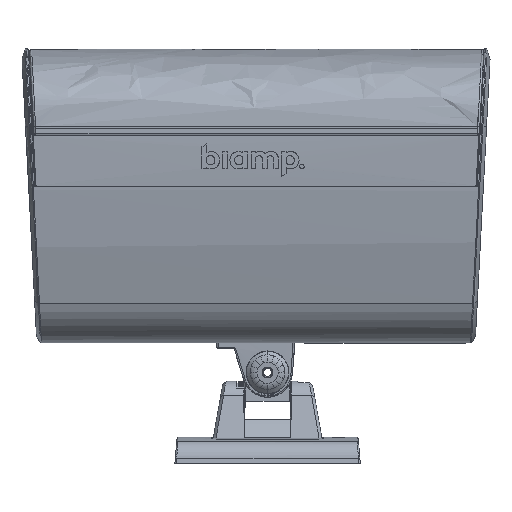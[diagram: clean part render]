
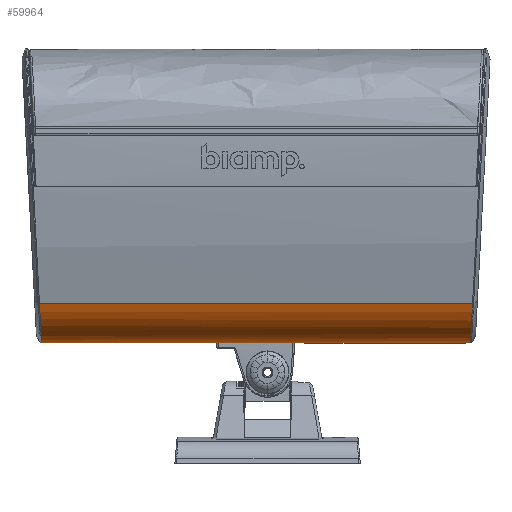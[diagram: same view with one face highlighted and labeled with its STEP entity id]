
A CAD part, left-side view. The second image highlights one B-rep face of the part: STEP entity #59964.
In plain terms, the highlighted cylindrical face has radius 42.87 mm (diameter 85.74 mm), a partial arc.
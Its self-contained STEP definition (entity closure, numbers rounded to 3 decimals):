
#1799 = CARTESIAN_POINT ( 'NONE',  ( -80.8, 161.025, -200.232 ) ) ;
#2420 = CARTESIAN_POINT ( 'NONE',  ( -79.644, 160.939, -201.892 ) ) ;
#3058 = CARTESIAN_POINT ( 'NONE',  ( -84.029, 161.322, -194.53 ) ) ;
#3700 = CARTESIAN_POINT ( 'NONE',  ( -81.928, 161.118, -198.447 ) ) ;
#4325 = CARTESIAN_POINT ( 'NONE',  ( -81.085, 161.048, -199.795 ) ) ;
#4511 = CYLINDRICAL_SURFACE ( 'NONE', #55769, 42.87 ) ;
#11992 = CARTESIAN_POINT ( 'NONE',  ( -70.273, 160.453, -211.259 ) ) ;
#12615 = CARTESIAN_POINT ( 'NONE',  ( -79.667, 160.941, -201.86 ) ) ;
#12633 = ORIENTED_EDGE ( 'NONE', *, *, #86346, .F. ) ;
#13247 = CARTESIAN_POINT ( 'NONE',  ( -58.419, 160.139, -217.341 ) ) ;
#13877 = CARTESIAN_POINT ( 'NONE',  ( -72.299, 160.534, -209.691 ) ) ;
#14489 = CARTESIAN_POINT ( 'NONE',  ( -70.367, 160.456, -211.191 ) ) ;
#14753 = CARTESIAN_POINT ( 'NONE',  ( -47.254, -160.03, -219.49 ) ) ;
#15367 = CARTESIAN_POINT ( 'NONE',  ( -76.855, -160.756, -205.414 ) ) ;
#17868 = EDGE_CURVE ( 'NONE', #25342, #51432, #103480, .T. ) ;
#19821 = CARTESIAN_POINT ( 'NONE',  ( -45.015, 163.5, -219.49 ) ) ;
#21547 = CARTESIAN_POINT ( 'NONE',  ( -79.64, 160.939, -201.897 ) ) ;
#22801 = CARTESIAN_POINT ( 'NONE',  ( -70.554, 160.463, -211.053 ) ) ;
#23428 = CARTESIAN_POINT ( 'NONE',  ( -59.192, 160.152, -217.079 ) ) ;
#24053 = CARTESIAN_POINT ( 'NONE',  ( -71.246, 160.491, -210.529 ) ) ;
#24325 = CARTESIAN_POINT ( 'NONE',  ( -66.431, -160.319, -213.825 ) ) ;
#25342 = VERTEX_POINT ( 'NONE', #65739 ) ;
#28668 = VERTEX_POINT ( 'NONE', #103016 ) ;
#30048 = ORIENTED_EDGE ( 'NONE', *, *, #17868, .F. ) ;
#30631 = B_SPLINE_CURVE_WITH_KNOTS ( 'NONE', 3,
 ( #122292, #82254, #54245, #94236, #123549, #122910, #15367, #73933, #121678, #93021, #24325, #110874, #34518, #35736, #63159, #73324, #14753, #112112 ),
 .UNSPECIFIED., .F., .F.,
 ( 4, 2, 2, 2, 2, 2, 2, 2, 4 ),
 ( 0., 0.125, 0.25, 0.375, 0.5, 0.625, 0.75, 0.875, 1. ),
 .UNSPECIFIED. ) ;
#31085 = CARTESIAN_POINT ( 'NONE',  ( -82.472, 161.168, -197.502 ) ) ;
#32369 = CARTESIAN_POINT ( 'NONE',  ( -59.578, 160.159, -216.942 ) ) ;
#32991 = CARTESIAN_POINT ( 'NONE',  ( -58.516, 160.141, -217.309 ) ) ;
#33609 = CARTESIAN_POINT ( 'NONE',  ( -80.149, 160.976, -201.188 ) ) ;
#34518 = CARTESIAN_POINT ( 'NONE',  ( -60.363, -160.17, -216.711 ) ) ;
#35736 = CARTESIAN_POINT ( 'NONE',  ( -56.103, -160.1, -218.092 ) ) ;
#40666 = CARTESIAN_POINT ( 'NONE',  ( -70.927, 160.478, -210.774 ) ) ;
#41310 = CARTESIAN_POINT ( 'NONE',  ( -56.14, 160.101, -218.083 ) ) ;
#41561 = VECTOR ( 'NONE', #59940, 1000. ) ;
#41947 = CARTESIAN_POINT ( 'NONE',  ( -66.384, 160.319, -213.852 ) ) ;
#42586 = CARTESIAN_POINT ( 'NONE',  ( -73.546, 160.589, -208.636 ) ) ;
#43206 = CARTESIAN_POINT ( 'NONE',  ( -63.396, 160.241, -215.366 ) ) ;
#47908 = LINE ( 'NONE', #19821, #41561 ) ;
#50857 = CARTESIAN_POINT ( 'NONE',  ( -58.741, 160.144, -217.234 ) ) ;
#51432 = VERTEX_POINT ( 'NONE', #102536 ) ;
#51486 = CARTESIAN_POINT ( 'NONE',  ( -79.699, 160.943, -201.816 ) ) ;
#52748 = CARTESIAN_POINT ( 'NONE',  ( -70.233, 160.451, -211.289 ) ) ;
#52935 = FACE_OUTER_BOUND ( 'NONE', #53265, .T. ) ;
#53265 = EDGE_LOOP ( 'NONE', ( #123832, #67799, #12633, #30048 ) ) ;
#54245 = CARTESIAN_POINT ( 'NONE',  ( -84.176, -161.339, -194.206 ) ) ;
#55769 = AXIS2_PLACEMENT_3D ( 'NONE', #109556, #82173, #100623 ) ;
#59168 = EDGE_CURVE ( 'NONE', #124830, #28668, #47908, .T. ) ;
#59940 = DIRECTION ( 'NONE',  ( 0., -1., 0. ) ) ;
#59964 = ADVANCED_FACE ( 'NONE', ( #52935 ), #4511, .T. ) ;
#61644 = CARTESIAN_POINT ( 'NONE',  ( -58.354, 160.138, -217.362 ) ) ;
#62891 = CARTESIAN_POINT ( 'NONE',  ( -70.194, 160.45, -211.317 ) ) ;
#63159 = CARTESIAN_POINT ( 'NONE',  ( -53.918, -160.073, -218.615 ) ) ;
#65739 = CARTESIAN_POINT ( 'NONE',  ( -85.74, 161.557, -190.011 ) ) ;
#67799 = ORIENTED_EDGE ( 'NONE', *, *, #59168, .T. ) ;
#69918 = CARTESIAN_POINT ( 'NONE',  ( -84.967, 161.435, -192.36 ) ) ;
#71023 = B_SPLINE_CURVE_WITH_KNOTS ( 'NONE', 3,
 ( #79448, #69918, #3058, #31085, #3700, #4325, #1799, #120775, #33609, #118253, #99147, #51486, #12615, #90243, #2420, #21547, #81973, #108719, #101670, #42586, #13877, #109355, #24053, #40666, #22801, #14489, #11992, #52748, #91514, #62891, #88998, #41947, #43206, #81365, #120158, #100421, #32369, #23428, #50857, #32991, #13247, #61644, #89621, #41310, #80086, #99781, #80730, #118896 ),
 .UNSPECIFIED., .F., .F.,
 ( 4, 2, 2, 2, 1, 1, 1, 1, 1, 2, 2, 2, 2, 2, 1, 1, 1, 1, 2, 2, 2, 2, 2, 1, 1, 1, 2, 2, 2, 4 ),
 ( 0., 0.125, 0.187, 0.219, 0.234, 0.242, 0.246, 0.248, 0.249, 0.25, 0.25, 0.375, 0.437, 0.469, 0.484, 0.492, 0.496, 0.498, 0.499, 0.5, 0.625, 0.687, 0.719, 0.734, 0.742, 0.746, 0.748, 0.75, 0.875, 1. ),
 .UNSPECIFIED. ) ;
#73096 = EDGE_CURVE ( 'NONE', #25342, #124830, #71023, .T. ) ;
#73324 = CARTESIAN_POINT ( 'NONE',  ( -49.494, -160.038, -219.314 ) ) ;
#73933 = CARTESIAN_POINT ( 'NONE',  ( -73.683, -160.592, -208.573 ) ) ;
#79448 = CARTESIAN_POINT ( 'NONE',  ( -85.74, 161.557, -190.011 ) ) ;
#80086 = CARTESIAN_POINT ( 'NONE',  ( -53.94, 160.074, -218.611 ) ) ;
#80730 = CARTESIAN_POINT ( 'NONE',  ( -47.253, 160.03, -219.49 ) ) ;
#81365 = CARTESIAN_POINT ( 'NONE',  ( -62.387, 160.217, -215.828 ) ) ;
#81973 = CARTESIAN_POINT ( 'NONE',  ( -78.25, 160.84, -203.8 ) ) ;
#82173 = DIRECTION ( 'NONE',  ( 0., 1., 0. ) ) ;
#82254 = CARTESIAN_POINT ( 'NONE',  ( -85.041, -161.447, -192.135 ) ) ;
#83166 = DIRECTION ( 'NONE',  ( 0., -1., 0. ) ) ;
#86346 = EDGE_CURVE ( 'NONE', #51432, #28668, #30631, .T. ) ;
#88998 = CARTESIAN_POINT ( 'NONE',  ( -68.323, 160.38, -212.673 ) ) ;
#89621 = CARTESIAN_POINT ( 'NONE',  ( -58.323, 160.137, -217.372 ) ) ;
#90243 = CARTESIAN_POINT ( 'NONE',  ( -79.653, 160.94, -201.879 ) ) ;
#91514 = CARTESIAN_POINT ( 'NONE',  ( -70.206, 160.45, -211.308 ) ) ;
#92073 = CARTESIAN_POINT ( 'NONE',  ( -85.74, -175., -190.011 ) ) ;
#93021 = CARTESIAN_POINT ( 'NONE',  ( -68.347, -160.38, -212.654 ) ) ;
#94236 = CARTESIAN_POINT ( 'NONE',  ( -82.133, -161.132, -198.186 ) ) ;
#97459 = CARTESIAN_POINT ( 'NONE',  ( -45.015, 160.031, -219.49 ) ) ;
#99147 = CARTESIAN_POINT ( 'NONE',  ( -79.764, 160.948, -201.727 ) ) ;
#99781 = CARTESIAN_POINT ( 'NONE',  ( -49.496, 160.039, -219.314 ) ) ;
#100421 = CARTESIAN_POINT ( 'NONE',  ( -60.348, 160.174, -216.658 ) ) ;
#100623 = DIRECTION ( 'NONE',  ( 0., 0., 1. ) ) ;
#101670 = CARTESIAN_POINT ( 'NONE',  ( -74.36, 160.627, -207.892 ) ) ;
#102536 = CARTESIAN_POINT ( 'NONE',  ( -85.74, -161.557, -190.011 ) ) ;
#103016 = CARTESIAN_POINT ( 'NONE',  ( -45.015, -160.031, -219.49 ) ) ;
#103480 = LINE ( 'NONE', #92073, #118398 ) ;
#108719 = CARTESIAN_POINT ( 'NONE',  ( -76.743, 160.75, -205.536 ) ) ;
#109355 = CARTESIAN_POINT ( 'NONE',  ( -71.88, 160.516, -210.033 ) ) ;
#109556 = CARTESIAN_POINT ( 'NONE',  ( -45.015, -175., -176.62 ) ) ;
#110874 = CARTESIAN_POINT ( 'NONE',  ( -62.439, -160.215, -215.853 ) ) ;
#112112 = CARTESIAN_POINT ( 'NONE',  ( -45.015, -160.031, -219.49 ) ) ;
#118253 = CARTESIAN_POINT ( 'NONE',  ( -79.892, 160.957, -201.548 ) ) ;
#118398 = VECTOR ( 'NONE', #83166, 1000. ) ;
#118896 = CARTESIAN_POINT ( 'NONE',  ( -45.015, 160.031, -219.49 ) ) ;
#120158 = CARTESIAN_POINT ( 'NONE',  ( -60.86, 160.184, -216.458 ) ) ;
#120775 = CARTESIAN_POINT ( 'NONE',  ( -80.367, 160.992, -200.872 ) ) ;
#121678 = CARTESIAN_POINT ( 'NONE',  ( -71.973, -160.516, -210.028 ) ) ;
#122292 = CARTESIAN_POINT ( 'NONE',  ( -85.74, -161.557, -190.011 ) ) ;
#122910 = CARTESIAN_POINT ( 'NONE',  ( -78.316, -160.845, -203.71 ) ) ;
#123549 = CARTESIAN_POINT ( 'NONE',  ( -80.955, -161.032, -200.096 ) ) ;
#123832 = ORIENTED_EDGE ( 'NONE', *, *, #73096, .T. ) ;
#124830 = VERTEX_POINT ( 'NONE', #97459 ) ;
